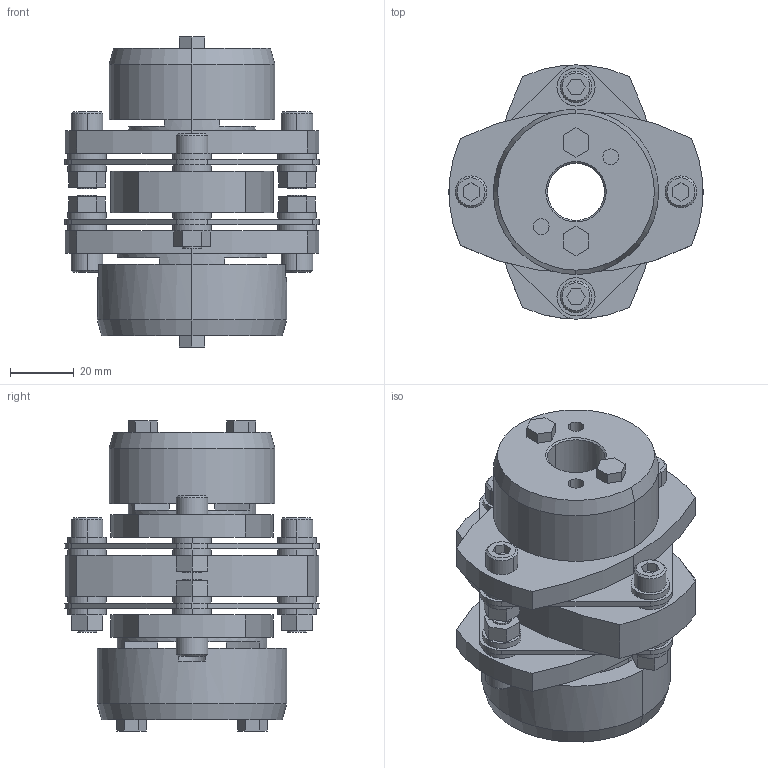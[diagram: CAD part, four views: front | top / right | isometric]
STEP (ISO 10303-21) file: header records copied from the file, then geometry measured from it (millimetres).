
FILE_DESCRIPTION((''),'2;1');
FILE_NAME('LCD-80T7-18×25.stp','2011-09-15T13:14:27',(''),(''),'AutoCAD STEP 2000i','AutoCAD 2000i',', , ');
FILE_SCHEMA(('CONFIG_CONTROL_DESIGN'));
Length unit declared in the file: millimetre
Products named in the file (8): LCD-80T7-17×24; 忣兜1; LC80T7-T024; LC80T7-T022; LC80T7-T019; LC80T7-T017-1; LC80T7-T017; LCD80-ITA
Assembly tree (7 placements, depth 2):
  LCD-80T7-17×24
    忣兜1
    LC80T7-T024
    LC80T7-T022
    LC80T7-T019
    LC80T7-T017-1
    LC80T7-T017
    LCD80-ITA
Bounding box: 80 x 79.95 x 97.5 mm (x, y, z)
Volume: 190209.6 mm3; surface area: 58236.8 mm2
Topology: 1 solids, 1 shells, 310 faces, 756 edges, 496 vertices
Faces by surface type: plane 164, cylinder 122, cone 24
Entity records: 9401 total; most frequent: DIRECTION 1680, CARTESIAN_POINT 1570, ORIENTED_EDGE 1512, EDGE_CURVE 756, AXIS2_PLACEMENT_3D 606, VERTEX_POINT 496, VECTOR 468, LINE 468
